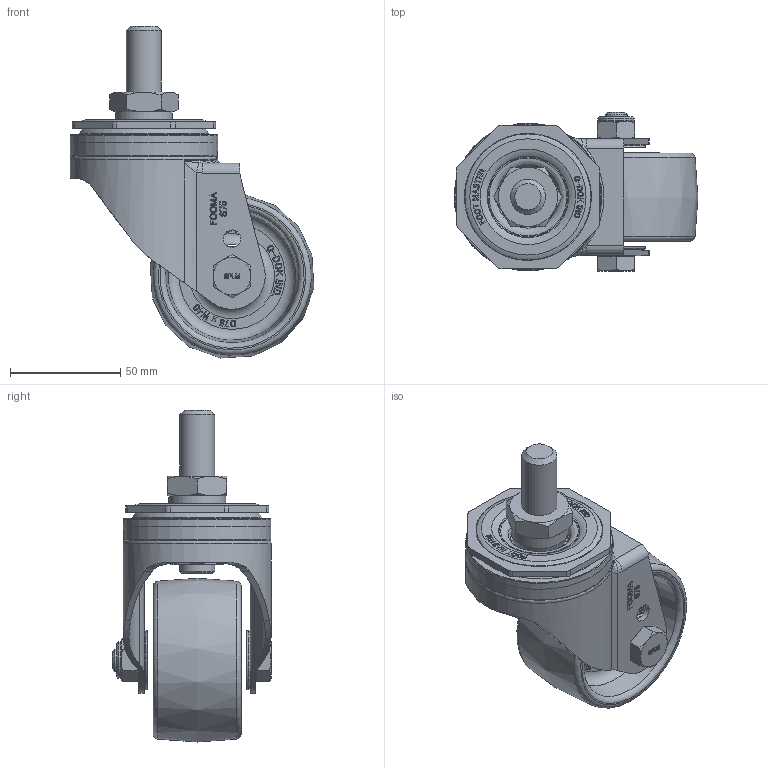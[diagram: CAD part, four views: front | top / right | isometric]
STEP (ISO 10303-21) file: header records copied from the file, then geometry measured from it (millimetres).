
FILE_DESCRIPTION(/* description */ (''),/* implementation_level */ '2;1');
FILE_NAME(/* name */ '\\192.168.10.38\지덕공유\1.기술연구소\2.연구개발 완료\완료_98.스테인레스캐스터 개발건_2023.10.26\제품설계\3D\홈페이지용\NYP\STP\SPLM-75-ASS-NYP.stp',/* time_stamp */ '2025-07-17T12:58:30+09:00',/* author */ ('admin'),/* organization */ ('지덕산업'),/* preprocessor_version */ 'ST-DEVELOPER v18.1',/* originating_system */ 'Autodesk Inventor 2021',/* authorisation */ '');
FILE_SCHEMA (('CONFIG_CONTROL_DESIGN'));
Length unit declared in the file: millimetre
Products named in the file (1): SPLM-75-ASS-NYP
Bounding box: 110.63 x 72.3 x 150.63 mm (x, y, z)
Volume: 218680 mm3; surface area: 60235 mm2
Topology: 1 solids, 1 shells, 1270 faces, 3441 edges, 2275 vertices
Faces by surface type: plane 658, bspline 432, cylinder 94, cone 52, torus 34
Full cylindrical faces by diameter (mm): 8 x2, 10 x1, 11 x1, 15.875 x1, 16 x2, 16.5 x1, 25.8 x1, 54 x1, 67 x1
Entity records: 40999 total; most frequent: CARTESIAN_POINT 12109, ORIENTED_EDGE 6874, DIRECTION 4378, EDGE_CURVE 3437, VERTEX_POINT 2275, LINE 2084, VECTOR 2084, EDGE_LOOP 1382
